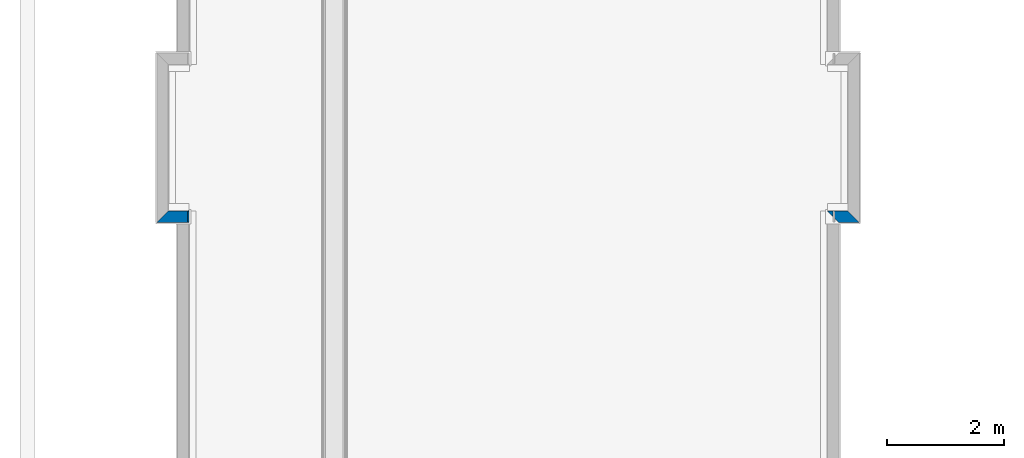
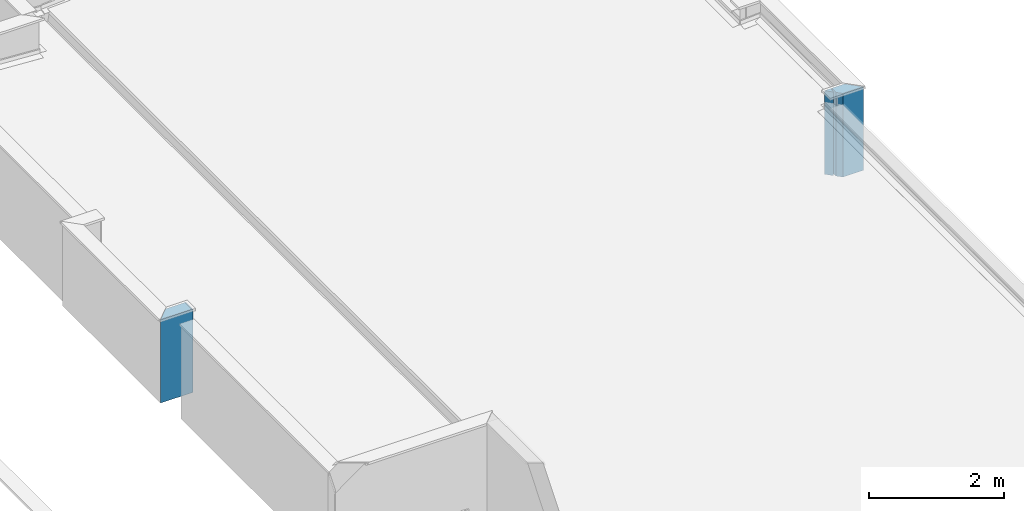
# One storey, part 3 of 25: 3 walls, 2 openings.
"""IFC4 building model written with IfcOpenShell, lengths in metres."""

from ifc_helpers import new_model, entity, si_unit, converted_unit, derived_unit, direction, frame, origin_with_axes, origin_2d_with_axis, place, context, subcontext, project, spatial, line, indexed_curve, rectangle, outline, extrude, polygons, source, transform, mapped, material, layer, layer_set, layer_usage, constituent, constituent_set, type_object, element, fill, save


model = new_model("IFC4")

# Units and contexts
model_context = context("Model", 3, precision=1e-05, world=origin_with_axes(), true_north=direction((0.0, 1.0)))
body_context = subcontext(model_context, "Body", "Model", "MODEL_VIEW")
ifc_project = project(units=[si_unit("LENGTHUNIT", "METRE"), si_unit("AREAUNIT", "SQUARE_METRE"), si_unit("VOLUMEUNIT", "CUBIC_METRE"), converted_unit("PLANEANGLEUNIT", "DEGREE", entity("IfcPlaneAngleMeasure", 0.0174532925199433), si_unit("PLANEANGLEUNIT", "RADIAN"), dimensions=[0, 0, 0, 0, 0, 0, 0]), converted_unit("TIMEUNIT", "Year", entity("IfcTimeMeasure", 31557600.0), si_unit("TIMEUNIT", "SECOND"), dimensions=[0, 0, 1, 0, 0, 0, 0]), si_unit("MASSUNIT", "GRAM", prefix="KILO"), si_unit("THERMODYNAMICTEMPERATUREUNIT", "DEGREE_CELSIUS"), si_unit("LUMINOUSINTENSITYUNIT", "LUMEN"), si_unit("ENERGYUNIT", "JOULE", prefix="MEGA"), derived_unit("THERMALCONDUCTANCEUNIT", [(si_unit("POWERUNIT", "WATT"), 1), (si_unit("LENGTHUNIT", "METRE"), -1), (si_unit("THERMODYNAMICTEMPERATUREUNIT", "KELVIN"), -1)]), derived_unit("SPECIFICHEATCAPACITYUNIT", [(si_unit("ENERGYUNIT", "JOULE"), 1), (si_unit("MASSUNIT", "GRAM", prefix="KILO"), -1), (si_unit("THERMODYNAMICTEMPERATUREUNIT", "KELVIN"), -1)]), derived_unit("MASSDENSITYUNIT", [(si_unit("MASSUNIT", "GRAM", prefix="KILO"), 1), (si_unit("VOLUMEUNIT", "CUBIC_METRE"), -1)])], contexts=[model_context])

# Site, building, storey
site_placement = place(None, origin_with_axes())
site = spatial("IfcSite", under=ifc_project, at=site_placement, Name="PADRÃO", CompositionType="ELEMENT")
building_placement = place(site_placement, origin_with_axes())
building = spatial("IfcBuilding", under=site, at=building_placement, Name="CRECHE PRÉ-ESCOLA TIPO 2", CompositionType="ELEMENT")
storey_placement = place(building_placement, frame((0.0, 0.0, 3.26), z_axis=(0.0, 0.0, 1.0), x_axis=(1.0, 0.0, 0.0)))
storey = spatial("IfcBuildingStorey", under=building, at=storey_placement, Name="COBERTURA", CompositionType="ELEMENT", Elevation=3.26)

# Wall, opening
ifc_material_1 = material(Name="EI-REV-Pintura Acrílica Cor Branco Gelo")
ifc_layer_1 = layer(ifc_material_1, 0.015, ventilated="UNKNOWN", Name="EI-REV-Pintura Acrílica Cor Branco Gelo 1")
ifc_material_2 = material(Name="EI-REV-Massa Acrílica (externa)")
ifc_layer_2 = layer(ifc_material_2, 0.005, ventilated="UNKNOWN", Name="EI-REV-Massa Acrílica (externa) 1")
ifc_material_3 = material(Name="EI-REV-Massa única - Fachada")
ifc_layer_3 = layer(ifc_material_3, 0.005, ventilated="UNKNOWN", Name="EI-REV-Massa única - Fachada 1")
ifc_material_4 = material(Name="EI-REV-Chapisco (externo)")
ifc_layer_4 = layer(ifc_material_4, 0.005, ventilated="UNKNOWN", Name="EI-REV-Chapisco (externo) 1")
ifc_material_5 = material(Name="TIJOLO - CERAMICO 14x19x39 - espessura 20cm")
ifc_layer_5 = layer(ifc_material_5, 0.14, ventilated="UNKNOWN", Name="TIJOLO - CERAMICO 14x19x39 - espessura 20cm")
ifc_layer_6 = layer(ifc_material_4, 0.005, ventilated="UNKNOWN", Name="EI-REV-Chapisco (externo) 2")
ifc_layer_7 = layer(ifc_material_3, 0.005, ventilated="UNKNOWN", Name="EI-REV-Massa única - Fachada 2")
ifc_layer_8 = layer(ifc_material_2, 0.005, ventilated="UNKNOWN", Name="EI-REV-Massa Acrílica (externa) 2")
ifc_layer_9 = layer(ifc_material_1, 0.015, ventilated="UNKNOWN", Name="EI-REV-Pintura Acrílica Cor Branco Gelo 2")
ifc_layer_set_1 = layer_set([ifc_layer_1, ifc_layer_2, ifc_layer_3, ifc_layer_4, ifc_layer_5, ifc_layer_6, ifc_layer_7, ifc_layer_8, ifc_layer_9], Name="FNDE-PLAT_AL14-Pintura Branca")
ifc_layer_usage_1 = layer_usage(ifc_layer_set_1, "AXIS2", "POSITIVE", -0.1)
wall_type_1 = type_object("IfcWallType", Name="FNDE-PLAT_AL14-Pintura Branca 200", PredefinedType="NOTDEFINED")
wall_1_placement = place(storey_placement, frame((-26.1400963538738, 32.000188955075, 0.0), z_axis=(0.0, 0.0, 1.0), x_axis=(0.999999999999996, 8.87208056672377e-08, 0.0)))
wall_1 = element("IfcWall", 1, at=wall_1_placement, inside=storey, type_object=wall_type_1, material=ifc_layer_usage_1, Name="AL14", PredefinedType="NOTDEFINED", context=body_context, shape_type="SweptSolid", body=[
    extrude(outline(indexed_curve([(0.0999999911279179, -0.0999999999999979), (0.450568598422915, -0.0999999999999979), (0.250568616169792, 0.100000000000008), (-0.0999999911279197, 0.100000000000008)], segments=[line(1, 2, 3, 4, 1)])), origin_with_axes(), (0.0, 0.0, 1.0), 1.51),
])
opening_1_placement = place(wall_1_placement, origin_with_axes())
element("IfcOpeningElement", 2, at=opening_1_placement, cuts=wall_1, Name="AL14", ObjectType="Recess", context=body_context, shape_type="Tessellation", body=[
    polygons([(0.0200000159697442, 0.0799999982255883, 1.51), (0.0200000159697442, 0.0799999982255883, 0.0), (0.0200000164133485, 0.0849999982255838, 0.0), (0.0200000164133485, 0.0849999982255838, 1.51), (0.025000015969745, 0.0799999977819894, 1.51), (0.025000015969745, 0.0799999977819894, 0.0), (8.87207818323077e-09, -8.87208528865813e-09, 0.0), (1.77441599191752e-08, 0.100000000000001, 0.0), (0.0150000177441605, 0.0999999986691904, 0.0), (0.0150000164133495, 0.0849999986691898, 0.0), (0.025000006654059, -0.0250000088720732, 0.0), (0.0150000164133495, 0.0849999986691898, 1.51), (0.0150000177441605, 0.0999999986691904, 1.51), (1.77441599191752e-08, 0.100000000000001, 1.51), (8.87207818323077e-09, -8.87208528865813e-09, 1.51), (0.025000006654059, -0.0250000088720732, 1.51)], [[[1, 2, 3, 4]], [[2, 1, 5, 6]], [[7, 8, 9, 10, 3, 2, 6, 11]], [[10, 12, 4, 3]], [[1, 4, 12, 13, 14, 15, 16, 5]], [[5, 16, 11, 6]], [[15, 14, 8, 7]], [[14, 13, 9, 8]], [[12, 10, 9, 13]], [[7, 11, 16, 15]]], closed=True),
])

# Walls, opening
ifc_material_6 = material(Name="EI-REV-Pintura Acrílica Cor Azul Externa")
ifc_layer_10 = layer(ifc_material_6, 0.015, ventilated="UNKNOWN", Name="EI-REV-Pintura Acrílica Cor Azul Externa")
ifc_layer_11 = layer(ifc_material_2, 0.005, ventilated="UNKNOWN", Name="EI-REV-Massa Acrílica (externa) 1")
ifc_layer_12 = layer(ifc_material_3, 0.005, ventilated="UNKNOWN", Name="EI-REV-Massa única - Fachada 1")
ifc_layer_13 = layer(ifc_material_4, 0.005, ventilated="UNKNOWN", Name="EI-REV-Chapisco (externo) 1")
ifc_layer_14 = layer(ifc_material_5, 0.14, ventilated="UNKNOWN", Name="TIJOLO - CERAMICO 14x19x39 - espessura 20cm")
ifc_layer_15 = layer(ifc_material_4, 0.005, ventilated="UNKNOWN", Name="EI-REV-Chapisco (externo) 2")
ifc_layer_16 = layer(ifc_material_3, 0.005, ventilated="UNKNOWN", Name="EI-REV-Massa única - Fachada 2")
ifc_layer_17 = layer(ifc_material_2, 0.005, ventilated="UNKNOWN", Name="EI-REV-Massa Acrílica (externa) 2")
ifc_layer_18 = layer(ifc_material_1, 0.015, ventilated="UNKNOWN", Name="EI-REV-Pintura Acrílica Cor Branco Gelo")
ifc_layer_set_2 = layer_set([ifc_layer_10, ifc_layer_11, ifc_layer_12, ifc_layer_13, ifc_layer_14, ifc_layer_15, ifc_layer_16, ifc_layer_17, ifc_layer_18], Name="FNDE-PLAT_AL14-Pintura Azul - Branca")
ifc_layer_usage_2 = layer_usage(ifc_layer_set_2, "AXIS2", "NEGATIVE", 0.1)
wall_type_2 = type_object("IfcWallType", Name="FNDE-PLAT_AL14-Pintura Azul - Branca 200", PredefinedType="NOTDEFINED")
wall_2_placement = place(storey_placement, frame((-37.1400921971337, 32.0000019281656, 0.0), z_axis=(0.0, 0.0, 1.0), x_axis=(-0.999999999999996, 8.87479245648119e-08, 0.0)))
wall_2 = element("IfcWall", 3, at=wall_2_placement, inside=storey, type_object=wall_type_2, material=ifc_layer_usage_2, Name="AL14", PredefinedType="NOTDEFINED", context=body_context, shape_type="SweptSolid", body=[
    extrude(outline(indexed_curve([(0.0, -0.100000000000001), (0.350000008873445, -0.100000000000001), (0.549999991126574, 0.0999999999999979), (0.0, 0.0999999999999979)], segments=[line(1, 2, 3, 4, 1)])), origin_with_axes(), (0.0, 0.0, 1.0), 1.51),
])
opening_2_placement = place(wall_2_placement, origin_with_axes())
opening_2 = element("IfcOpeningElement", 4, at=opening_2_placement, cuts=wall_2, Name="AL14", ObjectType="Recess", context=body_context, shape_type="SweptSolid", body=[
    extrude(rectangle(XDim=0.184999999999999, YDim=0.0150000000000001, at=origin_2d_with_axis()), frame((0.00749999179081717, -0.00749999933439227, 0.0), z_axis=(0.0, 0.0, 1.0), x_axis=(-8.87479243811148e-08, 0.999999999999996, 0.0)), (0.0, 0.0, 1.0), 1.51),
    extrude(rectangle(XDim=0.169999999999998, YDim=0.00499999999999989, at=origin_2d_with_axis()), frame((0.0174999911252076, 1.55309010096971e-09, 0.0), z_axis=(0.0, 0.0, 1.0), x_axis=(-8.87479243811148e-08, 0.999999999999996, 0.0)), (0.0, 0.0, 1.0), 1.51),
    extrude(rectangle(XDim=0.164999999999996, YDim=0.00499999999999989, at=origin_2d_with_axis()), frame((0.0224999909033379, 0.00250000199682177, 0.0), z_axis=(0.0, 0.0, 1.0), x_axis=(-8.87479243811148e-08, 0.999999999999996, 0.0)), (0.0, 0.0, 1.0), 1.51),
])
ifc_constituent_1 = constituent(ifc_material_1, Name="EI-REV-Pintura Acrílica Cor Branco Gelo")
ifc_constituent_2 = constituent(ifc_material_2, Name="EI-REV-Massa Acrílica (externa)")
ifc_constituent_3 = constituent(ifc_material_3, Name="EI-REV-Massa única - Fachada")
ifc_constituent_set = constituent_set(constituents=[ifc_constituent_1, ifc_constituent_2, ifc_constituent_3])
wall_type_3 = type_object("IfcWallType", Name="Arremate com Dobra Revest 27", PredefinedType="NOTDEFINED")
shared_shape = source(origin_with_axes(), body_context, "Body", "Tessellation", [
    polygons([(0.0, 0.0, 0.0), (0.0, -0.015, 0.0), (0.0, -0.015, 1.51), (0.0, 0.0, 1.51), (0.185, 0.0, 0.0), (0.185, -0.015, 0.0), (0.185, -0.015, 1.51), (0.185, 0.0, 1.51)], [[[1, 2, 3, 4]], [[5, 6, 2, 1]], [[6, 7, 3, 2]], [[7, 8, 4, 3]], [[8, 5, 1, 4]], [[5, 8, 7, 6]]], closed=True),
    polygons([(0.015, -0.015, 0.0), (0.015, -0.02, 0.0), (0.015, -0.02, 1.51), (0.015, -0.015, 1.51), (0.185, -0.015, 0.0), (0.185, -0.02, 0.0), (0.185, -0.02, 1.51), (0.185, -0.015, 1.51)], [[[1, 2, 3, 4]], [[5, 6, 2, 1]], [[6, 7, 3, 2]], [[7, 8, 4, 3]], [[8, 5, 1, 4]], [[5, 8, 7, 6]]], closed=True),
    polygons([(0.02, -0.02, 0.0), (0.02, -0.025, 0.0), (0.02, -0.025, 1.51), (0.02, -0.02, 1.51), (0.185, -0.02, 0.0), (0.185, -0.025, 0.0), (0.185, -0.025, 1.51), (0.185, -0.02, 1.51)], [[[1, 2, 3, 4]], [[5, 6, 2, 1]], [[6, 7, 3, 2]], [[7, 8, 4, 3]], [[8, 5, 1, 4]], [[5, 8, 7, 6]]], closed=True),
])
wall_3_placement = place(opening_2_placement, frame((-0.0125000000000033, 0.0, 0.0), z_axis=(0.0, 0.0, 1.0), x_axis=(1.0, 0.0, 0.0)))
wall_3 = element("IfcWall", 5, at=wall_3_placement, inside=storey, type_object=wall_type_3, material=ifc_constituent_set, Name="AL14", PredefinedType="NOTDEFINED", context=body_context, shape_type="MappedRepresentation", body=[
    mapped(shared_shape, transform((0.0124999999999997, -0.100000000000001, 0.0), x_axis=(-8.87479243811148e-08, 0.999999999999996, 0.0), y_axis=(-0.999999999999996, -8.87479243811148e-08, 0.0), z_axis=(0.0, 0.0, 1.0))),
])
fill(opening_2, wall_3)

save(model, "model.ifc")
